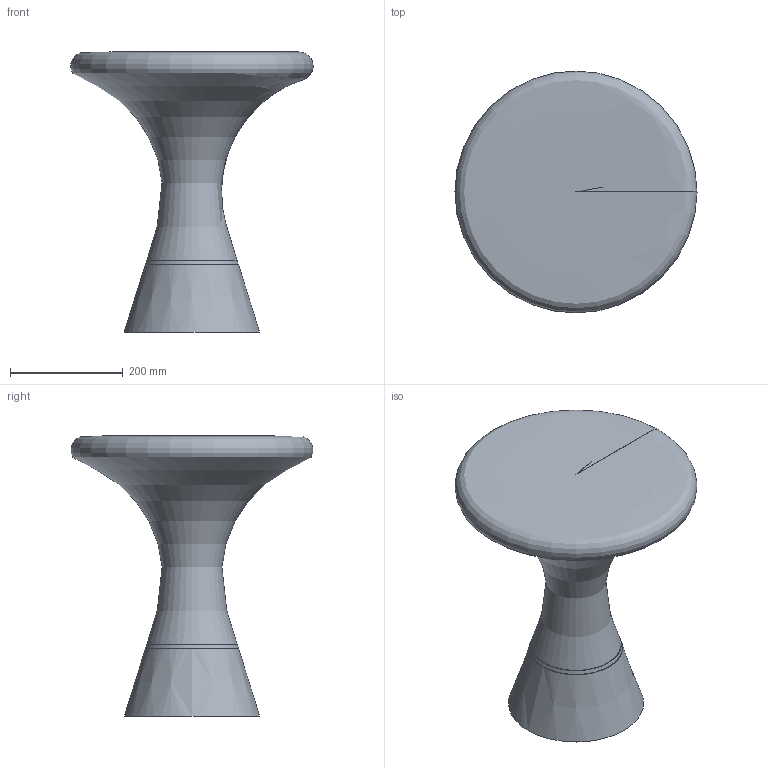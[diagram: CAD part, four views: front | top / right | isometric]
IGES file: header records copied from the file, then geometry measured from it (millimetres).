
Global section: file name: /Users/danielszollosi/Documents/SkLO/Sklo.com/3D models/Furniture/SkLO_TB110_JoinTable_Large.igs; native system: Rhinoceros ( Sep 24 2023 ); preprocessor: Trout Lake IGES 012 Sep 24 2023; date: 241216.103802; units: millimetre
Bounding box: 429.67 x 429.39 x 496.88 mm (x, y, z)
Surface area: 1009343.8 mm2 (no closed solid volume)
Topology: 0 solids, 0 shells, 19 faces, 73 edges, 52 vertices
Faces by surface type: bspline 19
